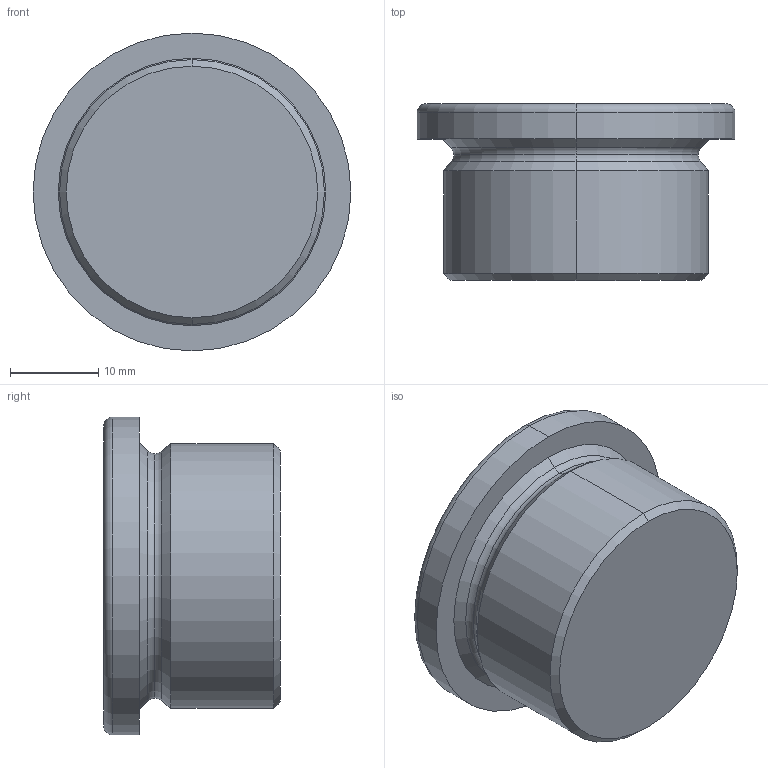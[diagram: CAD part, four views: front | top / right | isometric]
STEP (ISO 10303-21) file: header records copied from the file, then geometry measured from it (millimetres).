
FILE_DESCRIPTION (( 'STEP AP214' ), '1' );
FILE_NAME ('908-ST-M30x1,5-A.step', '2024-12-19T09:17:24', ( '' ), ( '' ), 'SwSTEP 2.0', 'SolidWorks 2022', '' );
FILE_SCHEMA (( 'AUTOMOTIVE_DESIGN' ));
Length unit declared in the file: millimetre
Products named in the file (1): 908-ST-M30x1,5-A
Bounding box: 36 x 20 x 36 mm (x, y, z)
Volume: 12854.2 mm3; surface area: 4484.9 mm2
Topology: 1 solids, 1 shells, 26 faces, 54 edges, 32 vertices
Faces by surface type: plane 10, torus 6, cone 6, cylinder 4
Entity records: 744 total; most frequent: DIRECTION 134, CARTESIAN_POINT 113, ORIENTED_EDGE 108, EDGE_CURVE 54, AXIS2_PLACEMENT_3D 53, VERTEX_POINT 32, EDGE_LOOP 28, VECTOR 28
